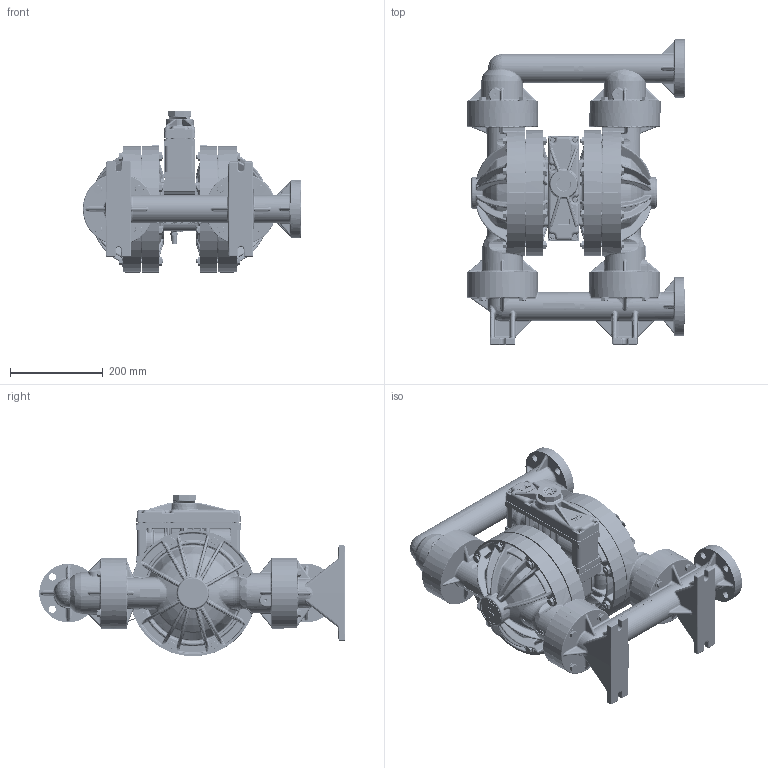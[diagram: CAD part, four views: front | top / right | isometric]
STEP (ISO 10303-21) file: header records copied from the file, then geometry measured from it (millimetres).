
FILE_DESCRIPTION (( 'STEP AP203' ), '1' );
FILE_NAME ('PS400_ADV_PVDF_ANSI.STEP', '2022-06-02T06:52:53', ( '' ), ( '' ), 'SwSTEP 2.0', 'SolidWorks 2019', '' );
FILE_SCHEMA (( 'CONFIG_CONTROL_DESIGN' ));
Products named in the file (1): PS400_ADV_PVDF_ANSI
Bounding box: 471.07 x 658.6 x 348.14 mm (x, y, z)
Volume: 22445928.1 mm3; surface area: 1662849.5 mm2
Topology: 1 solids, 1 shells, 11496 faces, 28141 edges, 16982 vertices
Faces by surface type: plane 4333, bspline 3288, cylinder 1510, cone 1010, torus 691, sphere 664
Entity records: 640988 total; most frequent: CARTESIAN_POINT 396142, ORIENTED_EDGE 56140, DIRECTION 43871, EDGE_CURVE 28070, VERTEX_POINT 16960, AXIS2_PLACEMENT_3D 15870, VECTOR 12131, LINE 12131
